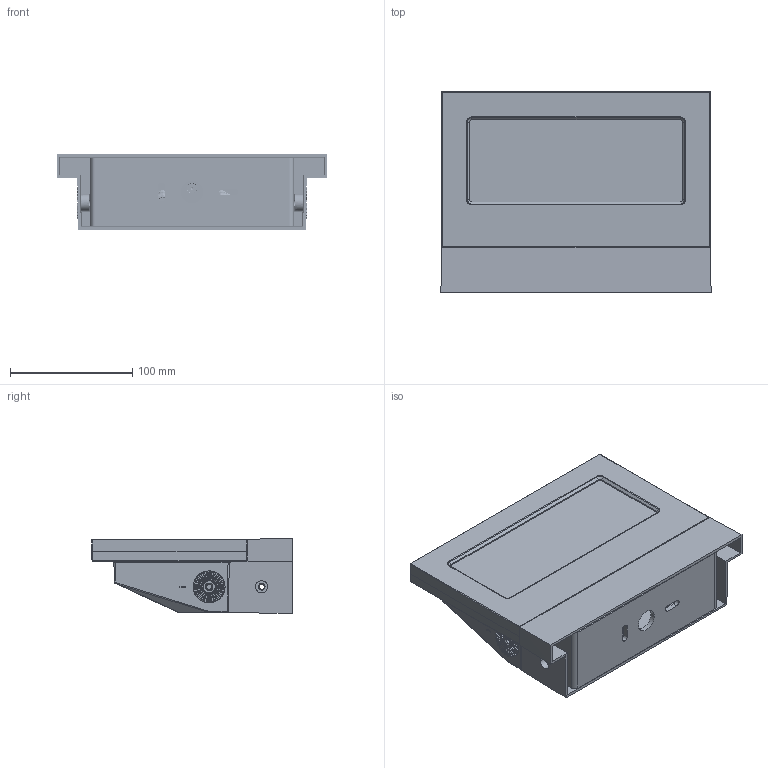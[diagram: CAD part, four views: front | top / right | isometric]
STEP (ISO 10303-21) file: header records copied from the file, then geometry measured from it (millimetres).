
FILE_DESCRIPTION((''),'2;1');
FILE_NAME('C7FKB0559_ASM','2024-12-04T',('C028'),(''),'CREO PARAMETRIC BY PTC INC, 2014190','CREO PARAMETRIC BY PTC INC, 2014190','');
FILE_SCHEMA(('CONFIG_CONTROL_DESIGN'));
Products named in the file (36): DT_172_1_1_2_1_1; MG00_154_1_1_2_1_1; 3FK-BOLI_152_1_1_2_1_1; DIYAQUDONG_101_1_1_2_1_1; 3FKZUJIAN_ASM_156_ASM_1_ASM_1_A_ASM; M4X0_7X5L_150_1_1_2_1_1; PGB9___2_149_1_1_2_1_1; M4X0_7X10L_150_1_1_2_1_1; RT22-WC-MIFENGTIAO_153_1_1_2_1_; JIAOSAI_4_ASM_1_ASM_ASM_1_ASM_1; ZHIJIA_ASM_120_ASM_1_ASM_ASM_1__ASM; ERHEYI-003_ASM_114_ASM_1_ASM_1__ASM; B49_GAIBAN_107_1_1_2_1_1; SANHEYI-002_ASM_106_ASM_1_ASM_1_ASM; 3FK_ASM_150_ASM_1_ASM_1_ASM_1_A_ASM; 3FK__ASM_1_ASM_1_ASM; ANZHUANGBIBAN_154_1_4_1_1_1; 3FK_WALL_PLATE_9_1_1_1; 3FKZUJIAN_ASM_156_ASM_1_ASM_A_1_ASM; 3FK_ASM_150_ASM_1_ASM_ASM_3_1_A_ASM; 7FK_0715_ASM_62_1_ASM_1_ASM_1_ASM; 7FK_0715_001_ASM_1_ASM_1_ASM; C7FKB1057__0819_ASM_1_ASM; 3FK_ASM_1_ASM; BEND_7FK_22_1_1_3; AL_LUO_ZHU_5_1_1_2; SCREW_M3X10_3_1_1_1; SCREW_M3X6_2_1_1_1; 7FK-FGQ_1; 7FK-FGP_1; XINLVJIBAN-00_1_1; LENS-00_45_1_1; C20_ASM_1_1_ASM; ASM0001_ASM; C3FKA1057_ASM_1_ASM; C7FKB0559_ASM
Assembly tree (52 placements, depth 8):
  C7FKB0559_ASM
    3FK_ASM_1_ASM
      3FK__ASM_1_ASM_1_ASM
        3FK_ASM_150_ASM_1_ASM_1_ASM_1_A_ASM
          3FKZUJIAN_ASM_156_ASM_1_ASM_1_A_ASM
            DT_172_1_1_2_1_1
            MG00_154_1_1_2_1_1
            3FK-BOLI_152_1_1_2_1_1
            DIYAQUDONG_101_1_1_2_1_1
          M4X0_7X5L_150_1_1_2_1_1  x8
          PGB9___2_149_1_1_2_1_1  x2
          M4X0_7X10L_150_1_1_2_1_1  x6
          RT22-WC-MIFENGTIAO_153_1_1_2_1_
          ZHIJIA_ASM_120_ASM_1_ASM_ASM_1__ASM
            JIAOSAI_4_ASM_1_ASM_ASM_1_ASM_1
          ERHEYI-003_ASM_114_ASM_1_ASM_1__ASM
          SANHEYI-002_ASM_106_ASM_1_ASM_1_ASM
            B49_GAIBAN_107_1_1_2_1_1
      C7FKB1057__0819_ASM_1_ASM
        7FK_0715_001_ASM_1_ASM_1_ASM
          7FK_0715_ASM_62_1_ASM_1_ASM_1_ASM
            3FK_ASM_150_ASM_1_ASM_ASM_3_1_A_ASM
              3FKZUJIAN_ASM_156_ASM_1_ASM_A_1_ASM
                ANZHUANGBIBAN_154_1_4_1_1_1
                3FK_WALL_PLATE_9_1_1_1
    C3FKA1057_ASM_1_ASM
      3FK_ASM_150_ASM_1_ASM_ASM_3_1_A_ASM
        3FKZUJIAN_ASM_156_ASM_1_ASM_A_1_ASM
          ANZHUANGBIBAN_154_1_4_1_1_1
          3FK_WALL_PLATE_9_1_1_1
      BEND_7FK_22_1_1_3
      AL_LUO_ZHU_5_1_1_2  x2
      SCREW_M3X10_3_1_1_1  x2
      SCREW_M3X6_2_1_1_1
      7FK-FGQ_1
      7FK-FGP_1
      ASM0001_ASM
        C20_ASM_1_1_ASM
          XINLVJIBAN-00_1_1
          LENS-00_45_1_1  x2
Bounding box: 221.29 x 164.08 x 61.54 mm (x, y, z)
Volume: 738637 mm3; surface area: 556880.2 mm2
Topology: 36 solids, 36 shells, 3496 faces, 9073 edges, 5785 vertices
Faces by surface type: plane 1554, cylinder 1034, bspline 375, cone 176, torus 160, extrusion 138, sphere 59
Entity records: 103470 total; most frequent: CARTESIAN_POINT 41181, ORIENTED_EDGE 13248, DIRECTION 12209, EDGE_CURVE 6624, AXIS2_PLACEMENT_3D 4372, VERTEX_POINT 4245, VECTOR 3465, LINE 3396
